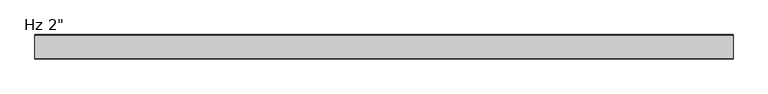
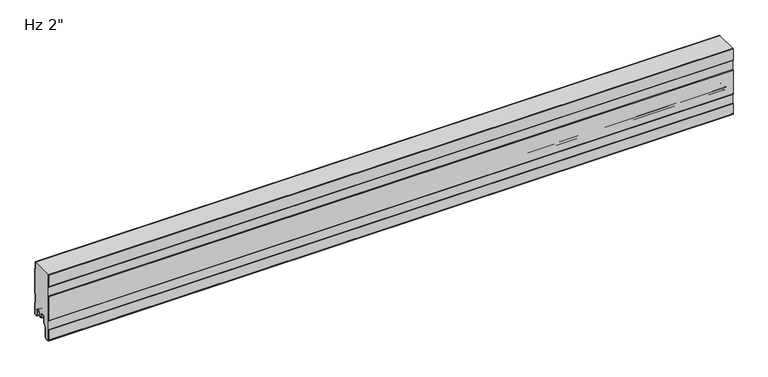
"""IFC4 building model written with IfcOpenShell, lengths in millimetres: plate geometry."""

from ifc_helpers import new_model, si_unit, point, frame, frame_2d, origin, place, context, project, spatial, polyline, circle_curve, trimmed, segment, composite_curve, outline, extrude, source, transform, mapped, element, save
from ifc_brep_helpers import plane_surface, cylinder_surface, revolved_surface, advanced_brep


def plate_f040c943(model_context):
    return source(origin(), model_context, "Body", "SolidModel", [
        advanced_brep(
        [(-730.0, -22.470875, 1.0316999), (-730.0, -21.3014003, 2.2328239), (-730.0, -21.3014003, 5.9912173), (-730.0, -22.6998791, 5.9912173), (-730.0, -22.6998791, 8.6903283), (-730.0, -26.0498744, 12.0403236), (-730.0, -30.4498656, 12.0403236), (-730.0, -33.7998609, 8.6903283), (-730.0, -33.7998609, -3.1205608), (-730.0, -34.2977778, -4.3226385), (-730.0, -39.7998489, -9.8247096), (-730.0, -39.7998489, -31.9198392), (-730.0, -42.0184509, -34.5765709), (-730.0, -47.0002718, -35.0125699), (-730.0, -49.7945967, -32.4521176), (-730.0, -49.8, 114.0023437), (-730.0, -2.206575, 114.0023437), (-730.0, -2.206575, 98.6192114), (-730.0, -1.0063443, 97.2335785), (-730.0, -1.0063443, 43.1801631), (-730.0, -2.206575, 41.7945301), (-730.0, -2.206575, 22.4193638), (-730.0, -1.0063443, 21.0337309), (-730.0, -1.0063443, -3.4662506), (-730.0, -5.2378832, -3.4662506), (-730.0, -7.0078774, -1.6962564), (-730.0, -7.0078774, 8.7237222), (-730.0, -10.3078733, 12.023718), (-730.0, -14.7078645, 12.023718), (-730.0, -18.0078602, 8.7237223), (-730.0, -18.0078602, 6.0315125), (-730.0, -19.0078547, 6.0315125), (-730.0, -19.0078547, 2.0313089), (-730.0, -18.0078635, 1.0313117), (-730.0, -19.0391752, 0.0), (-730.0, -21.4391751, 0.0), (730.0, -22.470875, 1.0316999), (730.0, -21.4391751, 0.0), (730.0, -19.0391752, 0.0), (730.0, -18.0078635, 1.0313117), (730.0, -19.0078547, 2.0313089), (730.0, -19.0078547, 6.0315125), (730.0, -18.0078602, 6.0315125), (730.0, -18.0078602, 8.7237223), (730.0, -14.7078645, 12.023718), (730.0, -10.3078733, 12.023718), (730.0, -7.0078774, 8.7237222), (730.0, -7.0078774, -1.6962564), (730.0, -5.2378832, -3.4662506), (730.0, -1.0063443, -3.4662506), (730.0, -1.0063443, 21.0337309), (730.0, -2.206575, 22.4193638), (730.0, -2.206575, 41.7945301), (730.0, -1.0063443, 43.1801631), (730.0, -1.0063443, 97.2335785), (730.0, -2.206575, 98.6192114), (730.0, -2.206575, 114.0023437), (730.0, -49.8, 114.0023437), (730.0, -49.8, -32.4521176), (730.0, -47.0002718, -35.0125699), (730.0, -42.0184509, -34.5765709), (730.0, -39.7998489, -31.9198392), (730.0, -39.7998489, -9.8247096), (730.0, -34.2977778, -4.3226385), (730.0, -33.7998609, -3.1205608), (730.0, -33.7998609, 8.6903283), (730.0, -30.4498656, 12.0403236), (730.0, -26.0498744, 12.0403236), (730.0, -22.6998791, 8.6903283), (730.0, -22.6998791, 5.9912173), (730.0, -21.3014003, 5.9912173), (730.0, -21.3014003, 2.2328239)],
        [
            (0, 1, circle_curve(frame((-730.0, -22.5013969, 2.2313092), z_axis=(1.0, 0.0, 0.0), x_axis=(0.0, 0.0, -1.0)), 1.1999976)),
            (1, 2),
            (2, 3),
            (3, 4),
            (4, 5, circle_curve(frame((-730.0, -26.0498744, 8.6903283), z_axis=(1.0, 0.0, 0.0), x_axis=(0.0, 0.0, -1.0)), 3.3499953)),
            (5, 6),
            (6, 7, circle_curve(frame((-730.0, -30.4498656, 8.6903283), z_axis=(1.0, 0.0, 0.0), x_axis=(0.0, 0.0, -1.0)), 3.3499953)),
            (7, 8),
            (8, 9, circle_curve(frame((-730.0, -35.4998555, -3.1205608), z_axis=(-1.0, 0.0, 0.0), x_axis=(0.0, 0.0, -1.0)), 1.6999946)),
            (9, 10),
            (10, 11),
            (11, 12, circle_curve(frame((-730.0, -42.4998415, -31.9198392), z_axis=(-1.0, 0.0, 0.0), x_axis=(0.0, 0.0, -1.0)), 2.6999926)),
            (12, 13),
            (13, 14, circle_curve(frame((-730.0, -47.2243575, -32.4521176), z_axis=(-1.0, 0.0, 0.0), x_axis=(0.0, 0.0, -1.0)), 2.5702393)),
            (14, 15),
            (15, 16),
            (16, 17),
            (17, 18),
            (18, 19),
            (19, 20),
            (20, 21),
            (21, 22),
            (22, 23),
            (23, 24),
            (24, 25, circle_curve(frame((-730.0, -5.2378832, -1.6962564), z_axis=(-1.0, 0.0, 0.0), x_axis=(0.0, 0.0, -1.0)), 1.7699942)),
            (25, 26),
            (26, 27, circle_curve(frame((-730.0, -10.3078733, 8.7237222), z_axis=(1.0, 0.0, 0.0), x_axis=(0.0, 0.0, -1.0)), 3.2999959)),
            (27, 28),
            (28, 29, circle_curve(frame((-730.0, -14.7078645, 8.7237223), z_axis=(1.0, 0.0, 0.0), x_axis=(0.0, 0.0, -1.0)), 3.2999957)),
            (29, 30),
            (30, 31),
            (31, 32),
            (32, 33, circle_curve(frame((-730.0, -18.0078576, 2.0313089), z_axis=(1.0, 0.0, 0.0), x_axis=(0.0, 0.0, -1.0)), 0.9999972)),
            (33, 34),
            (34, 35),
            (35, 0),
            (36, 37),
            (37, 38),
            (38, 39),
            (39, 40, circle_curve(frame((730.0, -18.0078576, 2.0313089), z_axis=(-1.0, 0.0, 0.0), x_axis=(0.0, 0.0, -1.0)), 0.9999972)),
            (40, 41),
            (41, 42),
            (42, 43),
            (43, 44, circle_curve(frame((730.0, -14.7078645, 8.7237223), z_axis=(-1.0, 0.0, 0.0), x_axis=(0.0, 0.0, -1.0)), 3.2999957)),
            (44, 45),
            (45, 46, circle_curve(frame((730.0, -10.3078733, 8.7237222), z_axis=(-1.0, 0.0, 0.0), x_axis=(0.0, 0.0, -1.0)), 3.2999959)),
            (46, 47),
            (47, 48, circle_curve(frame((730.0, -5.2378832, -1.6962564), z_axis=(1.0, 0.0, 0.0), x_axis=(0.0, 0.0, -1.0)), 1.7699942)),
            (48, 49),
            (49, 50),
            (50, 51),
            (51, 52),
            (52, 53),
            (53, 54),
            (54, 55),
            (55, 56),
            (56, 57),
            (57, 58),
            (58, 59, circle_curve(frame((730.0, -47.2243575, -32.4521176), z_axis=(1.0, 0.0, 0.0), x_axis=(0.0, 0.0, -1.0)), 2.5702393)),
            (59, 60),
            (60, 61, circle_curve(frame((730.0, -42.4998415, -31.9198392), z_axis=(1.0, 0.0, 0.0), x_axis=(0.0, 0.0, -1.0)), 2.6999926)),
            (61, 62),
            (62, 63),
            (63, 64, circle_curve(frame((730.0, -35.4998555, -3.1205608), z_axis=(1.0, 0.0, 0.0), x_axis=(0.0, 0.0, -1.0)), 1.6999946)),
            (64, 65),
            (65, 66, circle_curve(frame((730.0, -30.4498656, 8.6903283), z_axis=(-1.0, 0.0, 0.0), x_axis=(0.0, 0.0, -1.0)), 3.3499953)),
            (66, 67),
            (67, 68, circle_curve(frame((730.0, -26.0498744, 8.6903283), z_axis=(-1.0, 0.0, 0.0), x_axis=(0.0, 0.0, -1.0)), 3.3499953)),
            (68, 69),
            (69, 70),
            (70, 71),
            (71, 36, circle_curve(frame((730.0, -22.5013969, 2.2313092), z_axis=(-1.0, 0.0, 0.0), x_axis=(0.0, 0.0, -1.0)), 1.1999976)),
            (15, 57),
            (56, 16),
            (34, 38),
            (37, 35),
            (18, 54),
            (53, 19),
            (55, 17),
            (20, 52),
            (51, 21),
            (50, 22),
            (49, 23),
            (0, 36),
            (71, 1),
            (26, 46),
            (45, 27),
            (48, 24),
            (25, 47),
            (28, 44),
            (43, 29),
            (30, 42),
            (41, 31),
            (14, 58),
            (33, 39),
            (32, 40),
            (13, 59),
            (12, 60),
            (10, 62),
            (61, 11),
            (9, 63),
            (7, 65),
            (64, 8),
            (6, 66),
            (4, 68),
            (67, 5),
            (3, 69),
            (2, 70),
        ],
        [
            plane_surface(frame((-730.0, -49.8, 381.0), z_axis=(-1.0, 0.0, 0.0), x_axis=(0.0, -1.0, 0.0))),
            plane_surface(frame((730.0, -49.8, 381.0), z_axis=(1.0, 0.0, 0.0), x_axis=(0.0, -1.0, 0.0))),
            plane_surface(frame((730.0, 10.0, 114.0023437), z_axis=(0.0, 0.0, 1.0), x_axis=(-1.0, 0.0, 0.0))),
            plane_surface(frame((-730.0, -21.4391751, 0.0), z_axis=(0.0, 0.0, -1.0), x_axis=(1.0, 0.0, 0.0))),
            plane_surface(frame((-730.0, -1.0063443, 43.1801631), z_axis=(0.0, 1.0, 0.0), x_axis=(1.0, 0.0, 0.0))),
            plane_surface(frame((-730.0, -2.206575, 98.6192114), z_axis=(0.0, 1.0, 0.0), x_axis=(1.0, 0.0, 0.0))),
            plane_surface(frame((-730.0, -1.0063443, 97.2335785), z_axis=(0.0, 0.7558648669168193, 0.6547276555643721), x_axis=(1.0, 0.0, 0.0))),
            plane_surface(frame((-730.0, -2.206575, 22.4193638), z_axis=(0.0, 1.0, 0.0), x_axis=(1.0, 0.0, 0.0))),
            plane_surface(frame((-730.0, -2.206575, 41.7945301), z_axis=(0.0, 0.7558648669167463, -0.6547276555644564), x_axis=(1.0, 0.0, 0.0))),
            plane_surface(frame((-730.0, -1.0063443, 21.0337309), z_axis=(0.0, 0.7558648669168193, 0.6547276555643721), x_axis=(1.0, 0.0, 0.0))),
            plane_surface(frame((-730.0, -1.0063443, -3.4662506), z_axis=(0.0, 1.0, 0.0), x_axis=(1.0, 0.0, 0.0))),
            revolved_surface(polyline([(730.0, -22.5013969, 1.0313116), (-730.0, -22.5013969, 1.0313116)]), (-730.0, -22.5013969, 2.2313092), (1.0, 0.0, 0.0)),
            plane_surface(frame((-730.0, -22.470875, 1.0316999), z_axis=(0.0, -0.7071067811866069, -0.7071067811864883), x_axis=(1.0, 0.0, 0.0))),
            revolved_surface(polyline([(730.0, -10.3078733, 5.423726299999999), (-730.0, -10.3078733, 5.423726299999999)]), (-730.0, -10.3078733, 8.7237222), (1.0, 0.0, 0.0)),
            plane_surface(frame((-730.0, -5.2378832, -3.4662506), z_axis=(0.0, 0.0, -1.0), x_axis=(1.0, 0.0, 0.0))),
            plane_surface(frame((-730.0, -7.0078774, 8.7237222), z_axis=(0.0, -1.0, 0.0), x_axis=(1.0, 0.0, 0.0))),
            cylinder_surface(frame((-730.0, -5.2378832, -1.6962564), z_axis=(-1.0, 0.0, 0.0), x_axis=(0.0, 0.0, -1.0)), 1.7699942),
            revolved_surface(polyline([(730.0, -14.7078645, 5.4237266), (-730.0, -14.7078645, 5.4237266)]), (-730.0, -14.7078645, 8.7237223), (1.0, 0.0, 0.0)),
            plane_surface(frame((-730.0, -14.7078645, 12.023718), z_axis=(0.0, 0.0, -1.0), x_axis=(1.0, 0.0, 0.0))),
            plane_surface(frame((-730.0, -19.0078547, 6.0315125), z_axis=(0.0, 0.0, -1.0), x_axis=(1.0, 0.0, 0.0))),
            plane_surface(frame((-730.0, -18.0078602, 6.0315125), z_axis=(0.0, 1.0, 0.0), x_axis=(1.0, 0.0, 0.0))),
            plane_surface(frame((-730.0, -49.8, 713.515622), z_axis=(0.0, -1.0, 0.0), x_axis=(1.0, 0.0, 0.0))),
            plane_surface(frame((-730.0, -19.0391752, 0.0), z_axis=(0.0, 0.7071067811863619, -0.7071067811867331), x_axis=(1.0, 0.0, 0.0))),
            revolved_surface(polyline([(730.0, -18.0078576, 1.0313116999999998), (-730.0, -18.0078576, 1.0313116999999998)]), (-730.0, -18.0078576, 2.0313089), (1.0, 0.0, 0.0)),
            plane_surface(frame((-730.0, -19.0078547, 2.0313089), z_axis=(0.0, 1.0, 0.0), x_axis=(1.0, 0.0, 0.0))),
            cylinder_surface(frame((-730.0, -47.2243575, -32.4521176), z_axis=(-1.0, 0.0, 0.0), x_axis=(0.0, 0.0, -1.0)), 2.5702393),
            plane_surface(frame((-730.0, -47.0002718, -35.0125699), z_axis=(0.0, 0.08718474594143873, -0.9961921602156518), x_axis=(1.0, 0.0, 0.0))),
            plane_surface(frame((-730.0, -39.7998489, -31.9198392), z_axis=(0.0, 1.0, 0.0), x_axis=(1.0, 0.0, 0.0))),
            cylinder_surface(frame((-730.0, -42.4998415, -31.9198392), z_axis=(-1.0, 0.0, 0.0), x_axis=(0.0, 0.0, -1.0)), 2.6999926),
            plane_surface(frame((-730.0, -39.7998489, -9.8247096), z_axis=(0.0, 0.7071067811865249, -0.7071067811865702), x_axis=(1.0, 0.0, 0.0))),
            plane_surface(frame((-730.0, -33.7998609, -3.1205608), z_axis=(0.0, 1.0, 0.0), x_axis=(1.0, 0.0, 0.0))),
            revolved_surface(polyline([(730.0, -30.4498656, 5.340332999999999), (-730.0, -30.4498656, 5.340332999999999)]), (-730.0, -30.4498656, 8.6903283), (1.0, 0.0, 0.0)),
            cylinder_surface(frame((-730.0, -35.4998555, -3.1205608), z_axis=(-1.0, 0.0, 0.0), x_axis=(0.0, 0.0, -1.0)), 1.6999946),
            revolved_surface(polyline([(730.0, -26.0498744, 5.340332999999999), (-730.0, -26.0498744, 5.340332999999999)]), (-730.0, -26.0498744, 8.6903283), (1.0, 0.0, 0.0)),
            plane_surface(frame((-730.0, -30.4498656, 12.0403236), z_axis=(0.0, 0.0, -1.0), x_axis=(1.0, 0.0, 0.0))),
            plane_surface(frame((-730.0, -22.6998791, 8.6903283), z_axis=(0.0, -1.0, 0.0), x_axis=(1.0, 0.0, 0.0))),
            plane_surface(frame((-730.0, -22.6998791, 5.9912173), z_axis=(0.0, 0.0, -1.0), x_axis=(1.0, 0.0, 0.0))),
            plane_surface(frame((-730.0, -21.3014003, 5.9912173), z_axis=(0.0, -1.0, 0.0), x_axis=(1.0, 0.0, 0.0))),
        ],
        [
            (0, [[1, 2, 3, 4, 5, 6, 7, 8, 9, 10, 11, 12, 13, 14, 15, 16, 17, 18, 19, 20, 21, 22, 23, 24, 25, 26, 27, 28, 29, 30, 31, 32, 33, 34, 35, 36]]),
            (1, [[37, 38, 39, 40, 41, 42, 43, 44, 45, 46, 47, 48, 49, 50, 51, 52, 53, 54, 55, 56, 57, 58, 59, 60, 61, 62, 63, 64, 65, 66, 67, 68, 69, 70, 71, 72]]),
            (2, [[73, -57, 74, -16]]),
            (3, [[75, -38, 76, -35]]),
            (4, [[77, -54, 78, -19]]),
            (5, [[-17, -74, -56, 79]]),
            (6, [[-79, -55, -77, -18]]),
            (7, [[80, -52, 81, -21]]),
            (8, [[-78, -53, -80, -20]]),
            (9, [[-81, -51, 82, -22]]),
            (10, [[-82, -50, 83, -23]]),
            (11, [[84, -72, 85, -1]]),
            (12, [[-76, -37, -84, -36]]),
            (13, [[86, -46, 87, -27]]),
            (14, [[-83, -49, 88, -24]]),
            (15, [[89, -47, -86, -26]]),
            (16, [[-88, -48, -89, -25]]),
            (17, [[90, -44, 91, -29]]),
            (18, [[-87, -45, -90, -28]]),
            (19, [[92, -42, 93, -31]]),
            (20, [[-91, -43, -92, -30]]),
            (21, [[-58, -73, -15, 94]]),
            (22, [[95, -39, -75, -34]]),
            (23, [[96, -40, -95, -33]]),
            (24, [[-93, -41, -96, -32]]),
            (25, [[97, -59, -94, -14]]),
            (26, [[98, -60, -97, -13]]),
            (27, [[99, -62, 100, -11]]),
            (28, [[-100, -61, -98, -12]]),
            (29, [[101, -63, -99, -10]]),
            (30, [[102, -65, 103, -8]]),
            (31, [[104, -66, -102, -7]]),
            (32, [[-103, -64, -101, -9]]),
            (33, [[105, -68, 106, -5]]),
            (34, [[-106, -67, -104, -6]]),
            (35, [[107, -69, -105, -4]]),
            (36, [[108, -70, -107, -3]]),
            (37, [[-85, -71, -108, -2]]),
        ],
    ),
        advanced_brep(
        [(-730.0, -17.0015159, 2.0313088), (-730.0, -18.0015191, 1.0313116), (-730.0, -19.0015105, 2.0313088), (-730.0, -19.0015105, 6.0315125), (-730.0, -18.0015159, 6.0315125), (-730.0, -18.0015159, 8.7237223), (-730.0, -14.7015202, 12.023718), (-730.0, -10.301529, 12.023718), (-730.0, -7.0015335, 8.7237225), (-730.0, -7.0015335, -1.6962564), (-730.0, -5.2315393, -3.4662506), (-730.0, -0.9999916, -3.4662506), (-730.0, -0.9999916, 21.034026), (-730.0, -2.2002307, 22.4196686), (-730.0, -2.2002307, 41.7948349), (-730.0, -1.0, 43.1804679), (-730.0, -1.0, 97.2338833), (-730.0, -2.2002307, 98.6195162), (-730.0, -2.2002307, 114.0023437), (-730.0, -1.2002307, 114.0023437), (-730.0, -1.2002307, 98.9923967), (-730.0, -0.3417885, 98.001349), (-730.0, 0.0, 97.0847321), (-730.0, 0.0, 43.329619), (-730.0, -0.3417885, 42.4130021), (-730.0, -1.2002307, 41.4219545), (-730.0, -1.2002307, 22.7925491), (-730.0, -0.3417885, 21.8015014), (-730.0, 0.0, 20.8847931), (-730.0, 8.4e-06, -3.0662545), (-730.0, -1.3999878, -4.4662506), (-730.0, -5.2315393, -4.4662506), (-730.0, -8.0015335, -1.6962564), (-730.0, -8.0015335, 8.7237225), (-730.0, -10.301529, 11.023718), (-730.0, -14.7015202, 11.023718), (-730.0, -17.0015159, 8.7237223), (730.0, -17.0015159, 2.0313088), (730.0, -17.0015159, 8.7237223), (730.0, -14.7015202, 11.023718), (730.0, -10.301529, 11.023718), (730.0, -8.0015335, 8.7237225), (730.0, -8.0015335, -1.6962564), (730.0, -5.2315393, -4.4662506), (730.0, -1.3999878, -4.4662506), (730.0, 8.4e-06, -3.0662545), (730.0, 8.4e-06, 20.8848845), (730.0, -0.3417885, 21.8015014), (730.0, -1.2002307, 22.7925491), (730.0, -1.2002307, 41.4219545), (730.0, -0.3417885, 42.4130021), (730.0, 0.0, 43.329619), (730.0, 0.0, 97.0847321), (730.0, -0.3417885, 98.001349), (730.0, -1.2002307, 98.9923967), (730.0, -1.2002307, 114.0023437), (730.0, -2.2002307, 114.0023437), (730.0, -2.2002307, 98.6195162), (730.0, -1.0, 97.2338833), (730.0, -1.0, 43.1804679), (730.0, -2.2002307, 41.7948349), (730.0, -2.2002307, 22.4196686), (730.0, -0.9999916, 21.034026), (730.0, -0.9999916, -3.4662506), (730.0, -5.2315393, -3.4662506), (730.0, -7.0015335, -1.6962564), (730.0, -7.0015335, 8.7237225), (730.0, -10.301529, 12.023718), (730.0, -14.7015202, 12.023718), (730.0, -18.0015159, 8.7237223), (730.0, -18.0015159, 6.0315125), (730.0, -19.0015105, 6.0315125), (730.0, -19.0015105, 2.0313088), (730.0, -18.0015192, 1.0313116)],
        [
            (0, 1, circle_curve(frame((-730.0, -18.0015132, 2.0313088), z_axis=(-1.0, 0.0, 0.0), x_axis=(0.0, 0.0, 1.0)), 0.9999973)),
            (1, 2, circle_curve(frame((-730.0, -18.0015133, 2.0313088), z_axis=(-1.0, 0.0, 0.0), x_axis=(0.0, 0.0, 1.0)), 0.9999972)),
            (2, 3),
            (3, 4),
            (4, 5),
            (5, 6, circle_curve(frame((-730.0, -14.7015202, 8.7237223), z_axis=(-1.0, 0.0, 0.0), x_axis=(0.0, 0.0, 1.0)), 3.2999957)),
            (6, 7),
            (7, 8, circle_curve(frame((-730.0, -10.301529, 8.7237225), z_axis=(-1.0, 0.0, 0.0), x_axis=(0.0, 0.0, 1.0)), 3.2999955)),
            (8, 9),
            (9, 10, circle_curve(frame((-730.0, -5.2315393, -1.6962564), z_axis=(1.0, 0.0, 0.0), x_axis=(0.0, 0.0, 1.0)), 1.7699942)),
            (10, 11),
            (11, 12),
            (12, 13),
            (13, 14),
            (14, 15),
            (15, 16),
            (16, 17),
            (17, 18),
            (18, 19),
            (19, 20),
            (20, 21),
            (21, 22, circle_curve(frame((-730.0, -1.3999972, 97.0847321), z_axis=(-1.0, 0.0, 0.0), x_axis=(0.0, 0.0, 1.0)), 1.3999972)),
            (22, 23),
            (23, 24, circle_curve(frame((-730.0, -1.3999972, 43.329619), z_axis=(-1.0, 0.0, 0.0), x_axis=(0.0, 0.0, 1.0)), 1.3999972)),
            (24, 25),
            (25, 26),
            (26, 27),
            (27, 28, circle_curve(frame((-730.0, -1.3999972, 20.8848845), z_axis=(-1.0, 0.0, 0.0), x_axis=(0.0, 0.0, 1.0)), 1.3999972)),
            (28, 29),
            (29, 30, circle_curve(frame((-730.0, -1.3999878, -3.0662545), z_axis=(-1.0, 0.0, 0.0), x_axis=(0.0, 0.0, 1.0)), 1.3999962)),
            (30, 31),
            (31, 32, circle_curve(frame((-730.0, -5.2315393, -1.6962564), z_axis=(-1.0, 0.0, 0.0), x_axis=(0.0, 0.0, 1.0)), 2.7699942)),
            (32, 33),
            (33, 34, circle_curve(frame((-730.0, -10.301529, 8.7237225), z_axis=(1.0, 0.0, 0.0), x_axis=(0.0, 0.0, 1.0)), 2.2999955)),
            (34, 35),
            (35, 36, circle_curve(frame((-730.0, -14.7015202, 8.7237223), z_axis=(1.0, 0.0, 0.0), x_axis=(0.0, 0.0, 1.0)), 2.2999957)),
            (36, 0),
            (37, 38),
            (38, 39, circle_curve(frame((730.0, -14.7015202, 8.7237223), z_axis=(-1.0, 0.0, 0.0), x_axis=(0.0, 0.0, 1.0)), 2.2999957)),
            (39, 40),
            (40, 41, circle_curve(frame((730.0, -10.301529, 8.7237225), z_axis=(-1.0, 0.0, 0.0), x_axis=(0.0, 0.0, 1.0)), 2.2999955)),
            (41, 42),
            (42, 43, circle_curve(frame((730.0, -5.2315393, -1.6962564), z_axis=(1.0, 0.0, 0.0), x_axis=(0.0, 0.0, 1.0)), 2.7699942)),
            (43, 44),
            (44, 45, circle_curve(frame((730.0, -1.3999878, -3.0662545), z_axis=(1.0, 0.0, 0.0), x_axis=(0.0, 0.0, 1.0)), 1.3999962)),
            (45, 46),
            (46, 47, circle_curve(frame((730.0, -1.3999972, 20.8848845), z_axis=(1.0, 0.0, 0.0), x_axis=(0.0, 0.0, 1.0)), 1.3999972)),
            (47, 48),
            (48, 49),
            (49, 50),
            (50, 51, circle_curve(frame((730.0, -1.3999972, 43.329619), z_axis=(1.0, 0.0, 0.0), x_axis=(0.0, 0.0, 1.0)), 1.3999972)),
            (51, 52),
            (52, 53, circle_curve(frame((730.0, -1.3999972, 97.0847321), z_axis=(1.0, 0.0, 0.0), x_axis=(0.0, 0.0, 1.0)), 1.3999972)),
            (53, 54),
            (54, 55),
            (55, 56),
            (56, 57),
            (57, 58),
            (58, 59),
            (59, 60),
            (60, 61),
            (61, 62),
            (62, 63),
            (63, 64),
            (64, 65, circle_curve(frame((730.0, -5.2315393, -1.6962564), z_axis=(-1.0, 0.0, 0.0), x_axis=(0.0, 0.0, 1.0)), 1.7699942)),
            (65, 66),
            (66, 67, circle_curve(frame((730.0, -10.301529, 8.7237225), z_axis=(1.0, 0.0, 0.0), x_axis=(0.0, 0.0, 1.0)), 3.2999955)),
            (67, 68),
            (68, 69, circle_curve(frame((730.0, -14.7015202, 8.7237223), z_axis=(1.0, 0.0, 0.0), x_axis=(0.0, 0.0, 1.0)), 3.2999957)),
            (69, 70),
            (70, 71),
            (71, 72),
            (72, 73, circle_curve(frame((730.0, -18.0015133, 2.0313088), z_axis=(1.0, 0.0, 0.0), x_axis=(0.0, 0.0, 1.0)), 0.9999972)),
            (73, 37, circle_curve(frame((730.0, -18.0015132, 2.0313088), z_axis=(1.0, 0.0, 0.0), x_axis=(0.0, 0.0, 1.0)), 0.9999973)),
            (18, 56),
            (55, 19),
            (36, 38),
            (37, 0),
            (35, 39),
            (34, 40),
            (33, 41),
            (32, 42),
            (31, 43),
            (30, 44),
            (29, 45),
            (28, 46),
            (27, 47),
            (26, 48),
            (25, 49),
            (24, 50),
            (23, 51),
            (22, 52),
            (21, 53),
            (20, 54),
            (17, 57),
            (16, 58),
            (15, 59),
            (14, 60),
            (13, 61),
            (12, 62),
            (11, 63),
            (10, 64),
            (9, 65),
            (8, 66),
            (7, 67),
            (6, 68),
            (5, 69),
            (4, 70),
            (3, 71),
            (2, 72),
            (1, 73),
        ],
        [
            plane_surface(frame((-730.0, 0.0, 381.0), z_axis=(-1.0, 0.0, 0.0), x_axis=(0.0, 1.0, 0.0))),
            plane_surface(frame((730.0, 0.0, 381.0), z_axis=(1.0, 0.0, 0.0), x_axis=(0.0, 1.0, 0.0))),
            plane_surface(frame((730.0, 10.0, 114.0023437), z_axis=(0.0, 0.0, 1.0), x_axis=(-1.0, 0.0, 0.0))),
            plane_surface(frame((-730.0, -17.0015159, 2.0313088), z_axis=(0.0, 1.0, 0.0), x_axis=(1.0, 0.0, 0.0))),
            revolved_surface(polyline([(730.0, -14.7015202, 11.023718), (-730.0, -14.7015202, 11.023718)]), (-730.0, -14.7015202, 8.7237223), (1.0, 0.0, 0.0)),
            plane_surface(frame((-730.0, -14.7015202, 11.023718), z_axis=(0.0, 0.0, -1.0), x_axis=(1.0, 0.0, 0.0))),
            revolved_surface(polyline([(730.0, -10.301529, 11.023717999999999), (-730.0, -10.301529, 11.023717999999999)]), (-730.0, -10.301529, 8.7237225), (1.0, 0.0, 0.0)),
            plane_surface(frame((-730.0, -8.0015335, 8.7237225), z_axis=(0.0, -1.0, 0.0), x_axis=(1.0, 0.0, 0.0))),
            cylinder_surface(frame((-730.0, -5.2315393, -1.6962564), z_axis=(-1.0, 0.0, 0.0), x_axis=(0.0, 0.0, 1.0)), 2.7699942),
            plane_surface(frame((-730.0, -5.2315393, -4.4662506), z_axis=(0.0, 0.0, -1.0), x_axis=(1.0, 0.0, 0.0))),
            cylinder_surface(frame((-730.0, -1.3999878, -3.0662545), z_axis=(-1.0, 0.0, 0.0), x_axis=(0.0, 0.0, 1.0)), 1.3999962),
            plane_surface(frame((-730.0, 8.4e-06, -3.0662545), z_axis=(0.0, 1.0, 0.0), x_axis=(1.0, 0.0, 0.0))),
            cylinder_surface(frame((-730.0, -1.3999972, 20.8848845), z_axis=(-1.0, 0.0, 0.0), x_axis=(0.0, 0.0, 1.0)), 1.3999972),
            plane_surface(frame((-730.0, -0.3417885, 21.8015014), z_axis=(0.0, 0.755864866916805, 0.6547276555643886), x_axis=(1.0, 0.0, 0.0))),
            plane_surface(frame((-730.0, -1.2002307, 32.1072518), z_axis=(0.0, 1.0, 0.0), x_axis=(1.0, 0.0, 0.0))),
            plane_surface(frame((-730.0, -1.2002307, 41.4219545), z_axis=(0.0, 0.755864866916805, -0.6547276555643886), x_axis=(1.0, 0.0, 0.0))),
            cylinder_surface(frame((-730.0, -1.3999972, 43.329619), z_axis=(-1.0, 0.0, 0.0), x_axis=(0.0, 0.0, 1.0)), 1.3999972),
            plane_surface(frame((-730.0, 0.0, 43.329619), z_axis=(0.0, 1.0, 0.0), x_axis=(1.0, 0.0, 0.0))),
            cylinder_surface(frame((-730.0, -1.3999972, 97.0847321), z_axis=(-1.0, 0.0, 0.0), x_axis=(0.0, 0.0, 1.0)), 1.3999972),
            plane_surface(frame((-730.0, -0.3417885, 98.001349), z_axis=(0.0, 0.755864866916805, 0.6547276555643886), x_axis=(1.0, 0.0, 0.0))),
            plane_surface(frame((-730.0, -1.2002307, 108.3070994), z_axis=(0.0, 1.0, 0.0), x_axis=(1.0, 0.0, 0.0))),
            plane_surface(frame((-730.0, -2.2002307, 117.9946825), z_axis=(0.0, -1.0, 0.0), x_axis=(1.0, 0.0, 0.0))),
            plane_surface(frame((-730.0, -2.2002307, 98.6195162), z_axis=(0.0, -0.755864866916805, -0.6547276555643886), x_axis=(1.0, 0.0, 0.0))),
            plane_surface(frame((-730.0, -1.0, 97.2338833), z_axis=(0.0, -1.0, 0.0), x_axis=(1.0, 0.0, 0.0))),
            plane_surface(frame((-730.0, -1.0, 43.1804679), z_axis=(0.0, -0.755864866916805, 0.6547276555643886), x_axis=(1.0, 0.0, 0.0))),
            plane_surface(frame((-730.0, -2.2002307, 41.7948349), z_axis=(0.0, -1.0, 0.0), x_axis=(1.0, 0.0, 0.0))),
            plane_surface(frame((-730.0, -2.2002307, 22.4196686), z_axis=(0.0, -0.755864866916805, -0.6547276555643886), x_axis=(1.0, 0.0, 0.0))),
            plane_surface(frame((-730.0, -0.9999916, 21.034026), z_axis=(0.0, -1.0, 0.0), x_axis=(1.0, 0.0, 0.0))),
            plane_surface(frame((-730.0, -0.9999916, -3.4662506), z_axis=(0.0, 0.0, 1.0), x_axis=(1.0, 0.0, 0.0))),
            revolved_surface(polyline([(730.0, -5.2315393, 0.07373779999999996), (-730.0, -5.2315393, 0.07373779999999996)]), (-730.0, -5.2315393, -1.6962564), (1.0, 0.0, 0.0)),
            plane_surface(frame((-730.0, -7.0015335, -1.6962564), z_axis=(0.0, 1.0, 0.0), x_axis=(1.0, 0.0, 0.0))),
            cylinder_surface(frame((-730.0, -10.301529, 8.7237225), z_axis=(-1.0, 0.0, 0.0), x_axis=(0.0, 0.0, 1.0)), 3.2999955),
            plane_surface(frame((-730.0, -10.301529, 12.023718), z_axis=(0.0, 0.0, 1.0), x_axis=(1.0, 0.0, 0.0))),
            cylinder_surface(frame((-730.0, -14.7015202, 8.7237223), z_axis=(-1.0, 0.0, 0.0), x_axis=(0.0, 0.0, 1.0)), 3.2999957),
            plane_surface(frame((-730.0, -18.0015159, 8.7237223), z_axis=(0.0, -1.0, 0.0), x_axis=(1.0, 0.0, 0.0))),
            plane_surface(frame((-730.0, -18.0015159, 6.0315125), z_axis=(0.0, 0.0, 1.0), x_axis=(1.0, 0.0, 0.0))),
            plane_surface(frame((-730.0, -19.0015105, 6.0315125), z_axis=(0.0, -1.0, 0.0), x_axis=(1.0, 0.0, 0.0))),
            cylinder_surface(frame((-730.0, -18.0015133, 2.0313088), z_axis=(-1.0, 0.0, 0.0), x_axis=(0.0, 0.0, 1.0)), 0.9999972),
            cylinder_surface(frame((-730.0, -18.0015132, 2.0313088), z_axis=(-1.0, 0.0, 0.0), x_axis=(0.0, 0.0, 1.0)), 0.9999973),
        ],
        [
            (0, [[1, 2, 3, 4, 5, 6, 7, 8, 9, 10, 11, 12, 13, 14, 15, 16, 17, 18, 19, 20, 21, 22, 23, 24, 25, 26, 27, 28, 29, 30, 31, 32, 33, 34, 35, 36, 37]]),
            (1, [[38, 39, 40, 41, 42, 43, 44, 45, 46, 47, 48, 49, 50, 51, 52, 53, 54, 55, 56, 57, 58, 59, 60, 61, 62, 63, 64, 65, 66, 67, 68, 69, 70, 71, 72, 73, 74]]),
            (2, [[75, -56, 76, -19]]),
            (3, [[77, -38, 78, -37]]),
            (4, [[79, -39, -77, -36]]),
            (5, [[80, -40, -79, -35]]),
            (6, [[81, -41, -80, -34]]),
            (7, [[82, -42, -81, -33]]),
            (8, [[83, -43, -82, -32]]),
            (9, [[84, -44, -83, -31]]),
            (10, [[85, -45, -84, -30]]),
            (11, [[86, -46, -85, -29]]),
            (12, [[87, -47, -86, -28]]),
            (13, [[88, -48, -87, -27]]),
            (14, [[89, -49, -88, -26]]),
            (15, [[90, -50, -89, -25]]),
            (16, [[91, -51, -90, -24]]),
            (17, [[92, -52, -91, -23]]),
            (18, [[93, -53, -92, -22]]),
            (19, [[94, -54, -93, -21]]),
            (20, [[-20, -76, -55, -94]]),
            (21, [[-57, -75, -18, 95]]),
            (22, [[96, -58, -95, -17]]),
            (23, [[97, -59, -96, -16]]),
            (24, [[98, -60, -97, -15]]),
            (25, [[99, -61, -98, -14]]),
            (26, [[100, -62, -99, -13]]),
            (27, [[101, -63, -100, -12]]),
            (28, [[102, -64, -101, -11]]),
            (29, [[103, -65, -102, -10]]),
            (30, [[104, -66, -103, -9]]),
            (31, [[105, -67, -104, -8]]),
            (32, [[106, -68, -105, -7]]),
            (33, [[107, -69, -106, -6]]),
            (34, [[108, -70, -107, -5]]),
            (35, [[109, -71, -108, -4]]),
            (36, [[110, -72, -109, -3]]),
            (37, [[111, -73, -110, -2]]),
            (38, [[-78, -74, -111, -1]]),
        ],
    ),
        extrude(outline(composite_curve([segment(trimmed(circle_curve(frame_2d((-49.3998717, -10.6415934)), 1.3998661), [point((-50.7997378, -10.6415934))], [point((-50.3324955, -9.5976403))], False, "CARTESIAN"), True, "CONTINUOUS"), segment(polyline([(-50.3324955, -9.5976403), (-49.5997693, -8.8649141), (-49.5997693, 10.0260713), (-50.3327349, 10.7590369)]), True, "CONTINUOUS"), segment(trimmed(circle_curve(frame_2d((-49.4000237, 11.8030877)), 1.3999972), [point((-50.3327349, 10.7590369))], [point((-50.8, 11.810741))], False, "CARTESIAN"), True, "CONTINUOUS"), segment(polyline([(-50.8, 11.810741), (-50.8, 65.5582542)]), True, "CONTINUOUS"), segment(trimmed(circle_curve(frame_2d((-49.4000028, 65.5582542)), 1.3999972), [point((-50.8, 65.5582542))], [point((-50.332714, 66.602305))], False, "CARTESIAN"), True, "CONTINUOUS"), segment(polyline([(-50.332714, 66.602305), (-49.5997693, 67.3352497), (-49.5997693, 86.2259189), (-50.3327349, 86.9588845)]), True, "CONTINUOUS"), segment(trimmed(circle_curve(frame_2d((-49.4000237, 88.0029353)), 1.3999972), [point((-50.3327349, 86.9588845))], [point((-50.8, 88.0105886))], False, "CARTESIAN"), True, "CONTINUOUS"), segment(polyline([(-50.8, 88.0105886), (-50.8, 114.0023437), (-49.8, 114.0023437), (-49.8, 87.8405213), (-48.5997693, 86.6402905), (-48.5997693, 66.920878), (-49.8, 65.7206473), (-49.8, 11.6405156), (-48.5997693, 10.4402849), (-48.5997693, -9.2791277), (-49.7997378, -10.4790962), (-49.7997378, -32.4521176)]), True, "CONTINUOUS"), segment(trimmed(circle_curve(frame_2d((-47.2294985, -32.4521176)), 2.5702393), [point((-49.7997378, -32.4521176))], [point((-47.0054129, -35.0125699))], True, "CARTESIAN"), True, "CONTINUOUS"), segment(polyline([(-47.0054129, -35.0125699), (-42.023592, -34.5765709)]), True, "CONTINUOUS"), segment(trimmed(circle_curve(frame_2d((-42.5049826, -31.9198392)), 2.6999926), [point((-42.023592, -34.5765709))], [point((-39.80499, -31.9198392))], True, "CARTESIAN"), True, "CONTINUOUS"), segment(polyline([(-39.80499, -31.9198392), (-39.80499, -9.8247096), (-34.3029189, -4.3226385)]), True, "CONTINUOUS"), segment(trimmed(circle_curve(frame_2d((-35.5049966, -3.1205608)), 1.6999946), [point((-34.3029189, -4.3226385))], [point((-33.805002, -3.1205608))], True, "CARTESIAN"), True, "CONTINUOUS"), segment(polyline([(-33.805002, -3.1205608), (-33.805002, 8.6903283)]), True, "CONTINUOUS"), segment(trimmed(circle_curve(frame_2d((-30.4550067, 8.6903283)), 3.3499953), [point((-33.805002, 8.6903283))], [point((-30.4550067, 12.0403236))], False, "CARTESIAN"), True, "CONTINUOUS"), segment(polyline([(-30.4550067, 12.0403236), (-26.0550155, 12.0403236)]), True, "CONTINUOUS"), segment(trimmed(circle_curve(frame_2d((-26.0550155, 8.6903283)), 3.3499953), [point((-26.0550155, 12.0403236))], [point((-22.7050202, 8.6903283))], False, "CARTESIAN"), True, "CONTINUOUS"), segment(polyline([(-22.7050202, 8.6903283), (-22.7050202, 5.9912173), (-21.3065413, 5.9912173), (-21.3065413, 2.2328239)]), True, "CONTINUOUS"), segment(trimmed(circle_curve(frame_2d((-22.506538, 2.2313092)), 1.1999976), [point((-21.3065413, 2.2328239))], [point((-22.4760161, 1.0316999))], False, "CARTESIAN"), True, "CONTINUOUS"), segment(trimmed(circle_curve(frame_2d((-22.506538, 2.2313092)), 1.1999976), [point((-22.4760161, 1.0316999))], [point((-23.7050202, 2.1710221))], False, "CARTESIAN"), True, "CONTINUOUS"), segment(polyline([(-23.7050202, 2.1710221), (-23.7050202, 8.6903283)]), True, "CONTINUOUS"), segment(trimmed(circle_curve(frame_2d((-26.0550155, 8.6903283)), 2.3499953), [point((-23.7050202, 8.6903283))], [point((-26.0550155, 11.0403236))], True, "CARTESIAN"), True, "CONTINUOUS"), segment(polyline([(-26.0550155, 11.0403236), (-30.4550067, 11.0403236)]), True, "CONTINUOUS"), segment(trimmed(circle_curve(frame_2d((-30.4550067, 8.6903283)), 2.3499953), [point((-30.4550067, 11.0403236))], [point((-32.805002, 8.6903283))], True, "CARTESIAN"), True, "CONTINUOUS"), segment(polyline([(-32.805002, 8.6903283), (-32.805002, -3.1205608)]), True, "CONTINUOUS"), segment(trimmed(circle_curve(frame_2d((-35.5049966, -3.1205608)), 2.6999946), [point((-32.805002, -3.1205608))], [point((-33.5958121, -5.0297453))], False, "CARTESIAN"), True, "CONTINUOUS"), segment(polyline([(-33.5958121, -5.0297453), (-38.4242296, -9.8581627)]), True, "CONTINUOUS"), segment(trimmed(circle_curve(frame_2d((-37.5049926, -10.7773997)), 1.2999974), [point((-38.4242296, -9.8581627))], [point((-38.80499, -10.7773997))], True, "CARTESIAN"), True, "CONTINUOUS"), segment(polyline([(-38.80499, -10.7773997), (-38.80499, -31.9198392)]), True, "CONTINUOUS"), segment(trimmed(circle_curve(frame_2d((-42.5049826, -31.9198392)), 3.6999926), [point((-38.80499, -31.9198392))], [point((-41.8941815, -35.5690675))], False, "CARTESIAN"), True, "CONTINUOUS"), segment(polyline([(-41.8941815, -35.5690675), (-46.9182281, -36.008762)]), True, "CONTINUOUS"), segment(trimmed(circle_curve(frame_2d((-47.2294985, -32.4521176)), 3.5702393), [point((-46.9182281, -36.008762))], [point((-50.7997378, -32.4521176))], False, "CARTESIAN"), True, "CONTINUOUS"), segment(polyline([(-50.7997378, -32.4521176), (-50.7997378, -10.6415934)]), True, "CONTINUOUS")], self_intersect=False)), frame((-730.0, 0.0, 0.0), z_axis=(1.0, 0.0, 0.0), x_axis=(0.0, 1.0, 0.0)), (0.0, 0.0, 1.0), 1460.0),
    ])


if __name__ == "__main__":
    model = new_model("IFC4")
    model_context = context("Model", 3, world=origin())
    ifc_project = project(units=[si_unit("LENGTHUNIT", "METRE", prefix="MILLI")], contexts=[model_context])
    site = spatial("IfcSite", under=ifc_project)
    building = spatial("IfcBuilding", under=site)
    placement = place(None, origin())
    plate_shape = plate_f040c943(model_context)
    element("IfcPlate", 1, ObjectType="KIP-30-Karrier-KP-R19-CP-Hz-SL_SL : Hz 2\"", at=placement, inside=building, context=model_context, shape_type="MappedRepresentation", body=[
        mapped(plate_shape, transform((0.0, 0.0, 0.0), x_axis=(1.0, 0.0, 0.0), y_axis=(0.0, 1.0, 0.0), z_axis=(0.0, 0.0, 1.0))),
    ])
    save(model, "model.ifc")
